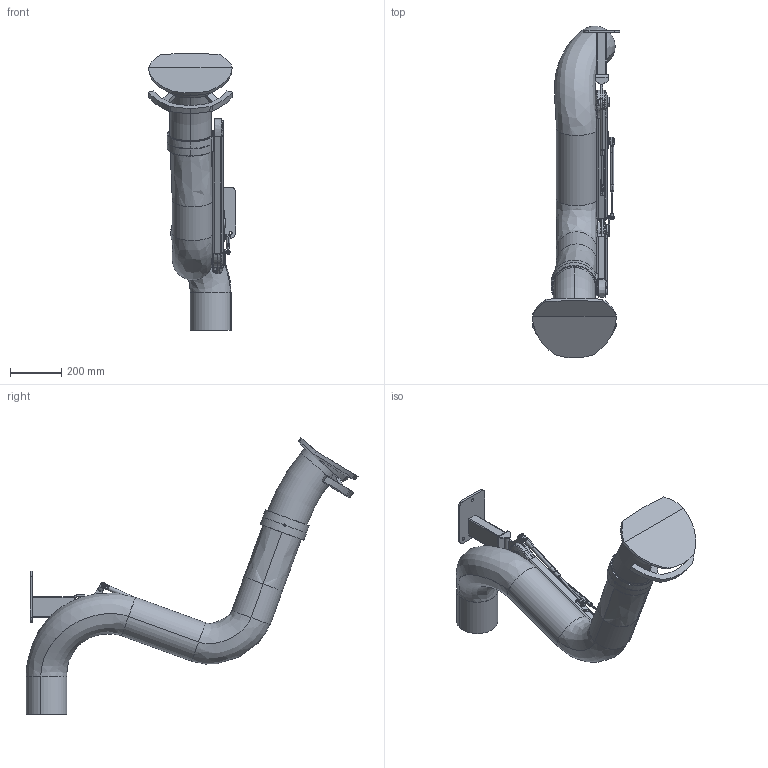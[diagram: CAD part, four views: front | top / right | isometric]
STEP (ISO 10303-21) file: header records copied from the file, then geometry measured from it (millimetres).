
FILE_DESCRIPTION((''),'2;1');
FILE_NAME('PR1500-160_135802','2017-12-20T',('Tomas Bellgran'),(''),'CREO PARAMETRIC BY PTC INC, 2016130','CREO PARAMETRIC BY PTC INC, 2016130','');
FILE_SCHEMA(('AUTOMOTIVE_DESIGN { 1 0 10303 214 1 1 1 1 }'));
Length unit declared in the file: millimetre
Products named in the file (43): 100-6300-01; 100-6300-02; 100-6300-04; 100-6300; 102677; 100-5506_L_LIGHT; 100-5506_R_LIGHT; 100-5506; 100-5404-L_LIGHT; 100-5404-R_LIGHT; 100-5404; 100-5914; 100-5913; 100-5915; 122221; 102678; 100-5512-L_LIGHT; 100-512-R_LIGHT; 100-5512; 122220; 102715; 100-5911; 100-5518; 100-6305-2; 100-6305-1; 100-6305; 134110; 100-5721_LIGHT; 100-5823C_LIGHT; 100-5862A_LIGHT; 100-5865A_LIGHT; 126056_AF1; 100-6341-160; 136612; 135583; STAB_K4-D4; 130367; 102118-REF; 135586; 130369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
Assembly tree (46 placements, depth 5):
  PR1500-160_135802
    100-6300
      100-6300-01
      100-6300-02
      100-6300-04
    134110
      122221
        102677
        100-5506
          100-5506_L_LIGHT
          100-5506_R_LIGHT
        100-5404
          100-5404-L_LIGHT
          100-5404-R_LIGHT
        100-5915  x2
          100-5914
          100-5913
      122220
        102678
        100-5512
          100-5512-L_LIGHT
          100-512-R_LIGHT
      100-5518
        102715
        100-5911
      100-6305
        100-6305-2
        100-6305-1
        100-5911
    100-5721_LIGHT
    100-6341-160
      100-5823C_LIGHT
      100-5862A_LIGHT
      100-5865A_LIGHT
      126056_AF1
    136612
    130367
      135583
      STAB_K4-D4
    102118-REF
    130369
      135586
      STAB_K4-D4
    102845-REF
      GAS_SPRING_ROD_STABILUS
      STAB_K4-D4
Bounding box: 341.5 x 1298.31 x 1083.06 mm (x, y, z)
Volume: 6957486.4 mm3; surface area: 2756067.8 mm2
Topology: 34 solids, 35 shells, 844 faces, 2036 edges, 1259 vertices
Faces by surface type: cylinder 273, plane 270, cone 118, bspline 78, torus 75, sphere 26, extrusion 4
Entity records: 42328 total; most frequent: CARTESIAN_POINT 10892, DIRECTION 3754, ORIENTED_EDGE 3530, EDGE_CURVE 1765, PROPERTY_DEFINITION 1698, REPRESENTATION 1670, PROPERTY_DEFINITION_REPRESENTATION 1670, AXIS2_PLACEMENT_3D 1511
